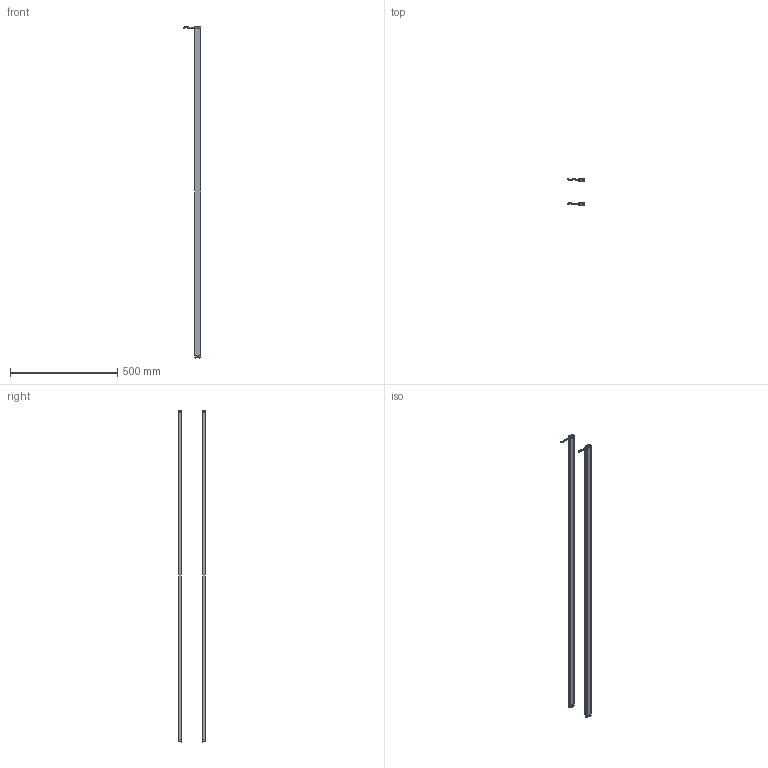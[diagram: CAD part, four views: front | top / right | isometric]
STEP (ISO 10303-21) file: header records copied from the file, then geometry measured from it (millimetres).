
FILE_DESCRIPTION(/* description */ (''),/* implementation_level */ '2;1');
FILE_NAME(/* name */ '7620（13x28w).stp',/* time_stamp */ '2021-06-02T11:22:50+08:00',/* author */ (''),/* organization */ (''),/* preprocessor_version */ 'ST-DEVELOPER v16',/* originating_system */ 'SIEMENS PLM Software NX 10.0',/* authorisation */ '');
FILE_SCHEMA (('AP203_CONFIGURATION_CONTROLLED_3D_DESIGN_OF_MECHANICAL_PARTS_AND_ASSEMBLIES_MIM_LF { 1 0 10303 403 2 1 2}'));
Length unit declared in the file: millimetre
Products named in the file (1): Admi181CE3BDp38m
Bounding box: 79.6 x 125.02 x 1546 mm (x, y, z)
Volume: 446401.8 mm3; surface area: 594076.4 mm2
Topology: 10 solids, 10 shells, 760 faces, 2150 edges, 1419 vertices
Faces by surface type: plane 356, cylinder 312, torus 52, bspline 40
Entity records: 28459 total; most frequent: CARTESIAN_POINT 8931, ORIENTED_EDGE 4300, DIRECTION 3785, EDGE_CURVE 2150, VERTEX_POINT 1419, AXIS2_PLACEMENT_3D 1285, LINE 1215, VECTOR 1215
